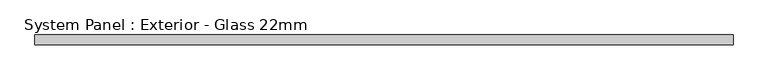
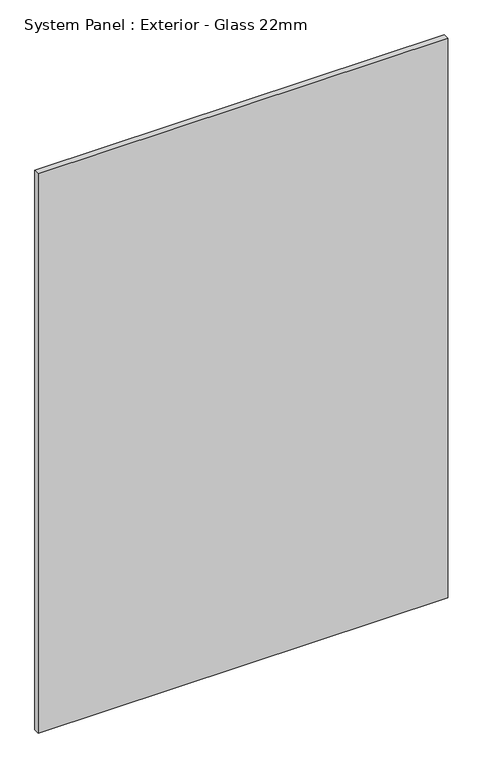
"""IFC4 building model written with IfcOpenShell, lengths in millimetres: plate geometry, System Panel : Exterior - Glass 22mm."""

from ifc_helpers import new_model, si_unit, origin, origin_with_axes, place, context, project, spatial, polyline, outline, extrude, source, transform, mapped, element, save


def system_panel_exterior_glass_22mm_926646bc(model_context):
    return source(origin(), model_context, "Body", "SweptSolid", [
        extrude(outline(polyline([(796.25, -50.0), (-796.25, -50.0), (-796.25, -28.0), (796.25, -28.0), (796.25, -50.0)])), origin_with_axes(), (0.0, 0.0, 1.0), 2300.0),
    ])


if __name__ == "__main__":
    model = new_model("IFC4")
    model_context = context("Model", 3, world=origin())
    ifc_project = project(units=[si_unit("LENGTHUNIT", "METRE", prefix="MILLI")], contexts=[model_context])
    site = spatial("IfcSite", under=ifc_project)
    building = spatial("IfcBuilding", under=site)
    placement = place(None, origin())
    system_panel_exterior_glass_22mm_shape = system_panel_exterior_glass_22mm_926646bc(model_context)
    element("IfcPlate", 1, ObjectType="System Panel : Exterior - Glass 22mm", at=placement, inside=building, context=model_context, shape_type="MappedRepresentation", body=[
        mapped(system_panel_exterior_glass_22mm_shape, transform((0.0, 0.0, 0.0), x_axis=(1.0, 0.0, 0.0), y_axis=(0.0, 1.0, 0.0), z_axis=(0.0, 0.0, 1.0))),
    ])
    save(model, "model.ifc")
